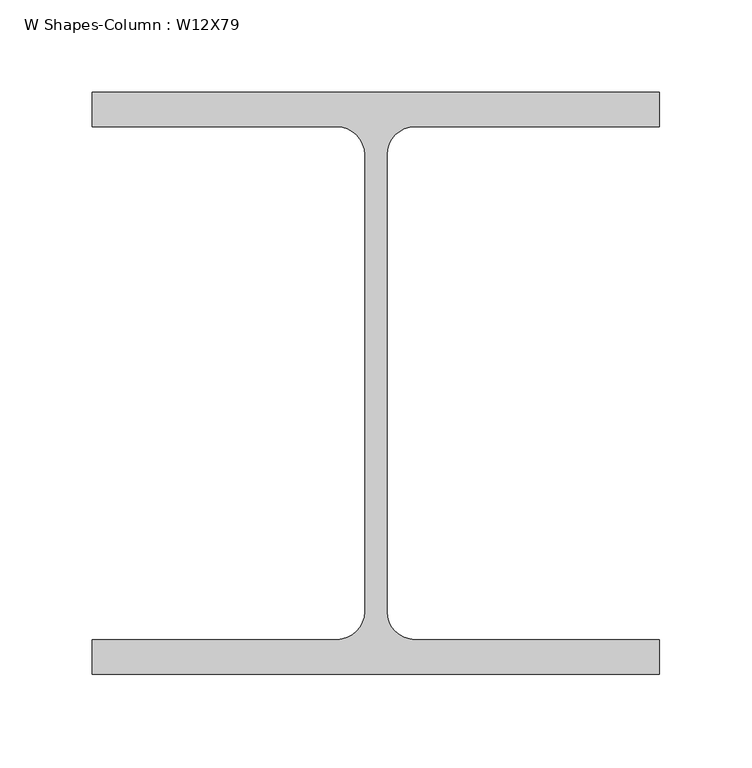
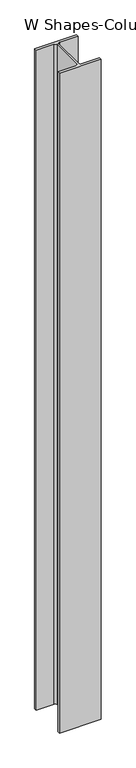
"""IFC4 building model written with IfcOpenShell, lengths in millimetres: column geometry, W Shapes-Column : W12X79."""

from ifc_helpers import new_model, si_unit, point, frame, frame_2d, origin, place, context, project, spatial, polyline, circle_curve, trimmed, segment, composite_curve, outline, extrude, source, transform, mapped, element, save


def w_shapes_column_w12x79_edbe5077(model_context):
    return source(origin(), model_context, "Body", "SweptSolid", [
        extrude(outline(composite_curve([segment(polyline([(153.67, 157.48), (153.67, 138.811), (21.082, 138.811)]), True, "CONTINUOUS"), segment(trimmed(circle_curve(frame_2d((21.082, 123.698)), 15.113), [point((21.082, 138.811))], [point((5.969, 123.698))], True, "CARTESIAN"), True, "CONTINUOUS"), segment(polyline([(5.969, 123.698), (5.969, -123.698)]), True, "CONTINUOUS"), segment(trimmed(circle_curve(frame_2d((21.082, -123.698)), 15.113), [point((5.969, -123.698))], [point((21.082, -138.811))], True, "CARTESIAN"), True, "CONTINUOUS"), segment(polyline([(21.082, -138.811), (153.67, -138.811), (153.67, -157.48), (-153.67, -157.48), (-153.67, -138.811), (-21.082, -138.811)]), True, "CONTINUOUS"), segment(trimmed(circle_curve(frame_2d((-21.082, -123.698)), 15.113), [point((-21.082, -138.811))], [point((-5.969, -123.698))], True, "CARTESIAN"), True, "CONTINUOUS"), segment(polyline([(-5.969, -123.698), (-5.969, 123.698)]), True, "CONTINUOUS"), segment(trimmed(circle_curve(frame_2d((-21.082, 123.698)), 15.113), [point((-5.969, 123.698))], [point((-21.082, 138.811))], True, "CARTESIAN"), True, "CONTINUOUS"), segment(polyline([(-21.082, 138.811), (-153.67, 138.811), (-153.67, 157.48), (153.67, 157.48)]), True, "CONTINUOUS")], self_intersect=False)), frame((0.0, 0.0, -450.0), z_axis=(0.0, 0.0, 1.0), x_axis=(1.0, 0.0, 0.0)), (0.0, 0.0, 1.0), 5145.0),
    ])


if __name__ == "__main__":
    model = new_model("IFC4")
    model_context = context("Model", 3, world=origin())
    ifc_project = project(units=[si_unit("LENGTHUNIT", "METRE", prefix="MILLI")], contexts=[model_context])
    site = spatial("IfcSite", under=ifc_project)
    building = spatial("IfcBuilding", under=site)
    placement = place(None, origin())
    w_shapes_column_w12x79_shape = w_shapes_column_w12x79_edbe5077(model_context)
    element("IfcColumn", 1, ObjectType="W Shapes-Column : W12X79", at=placement, inside=building, context=model_context, shape_type="MappedRepresentation", body=[
        mapped(w_shapes_column_w12x79_shape, transform((0.0, 0.0, 0.0), x_axis=(1.0, 0.0, 0.0), y_axis=(0.0, 1.0, 0.0), z_axis=(0.0, 0.0, 1.0))),
    ])
    save(model, "model.ifc")
